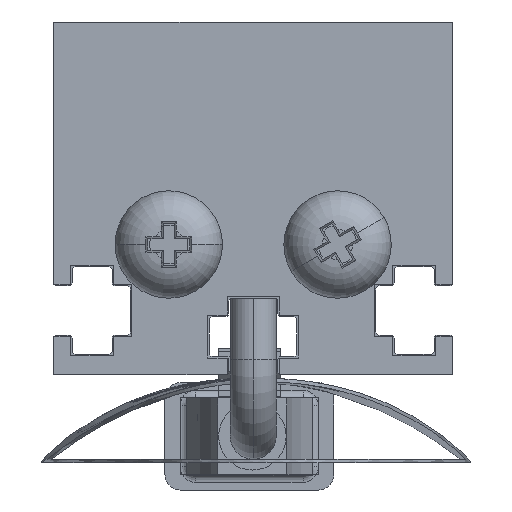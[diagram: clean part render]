
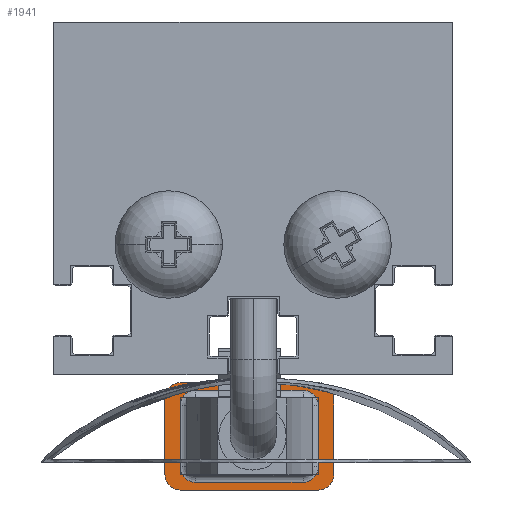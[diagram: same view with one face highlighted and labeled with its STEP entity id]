
A CAD part, left-side view. The second image highlights one B-rep face of the part: STEP entity #1941.
In plain terms, the highlighted planar face has unit normal (-1, 0, 0).
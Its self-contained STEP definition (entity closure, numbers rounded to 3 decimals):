
#1941=ADVANCED_FACE('NONE',(#4051,#4052),#4053,.F.);
#4051=FACE_OUTER_BOUND('',#6636,.T.);
#4052=FACE_BOUND('',#6637,.T.);
#4053=PLANE('',#6638);
#6636=EDGE_LOOP('',(#12261,#12262,#12263,#12264,#12265,#12266,#12267,#12268,#12269,#12270,#12271,#12272));
#6637=EDGE_LOOP('',(#12273,#12274,#12275,#12276,#12277,#12278,#12279,#12280));
#6638=AXIS2_PLACEMENT_3D('',#12281,#12282,#12283);
#12261=ORIENTED_EDGE('',*,*,#17531,.T.);
#12262=ORIENTED_EDGE('',*,*,#17333,.T.);
#12263=ORIENTED_EDGE('',*,*,#17539,.F.);
#12264=ORIENTED_EDGE('',*,*,#17328,.T.);
#12265=ORIENTED_EDGE('',*,*,#17552,.F.);
#12266=ORIENTED_EDGE('',*,*,#17375,.T.);
#12267=ORIENTED_EDGE('',*,*,#17550,.F.);
#12268=ORIENTED_EDGE('',*,*,#17384,.F.);
#12269=ORIENTED_EDGE('',*,*,#17534,.F.);
#12270=ORIENTED_EDGE('',*,*,#17325,.T.);
#12271=ORIENTED_EDGE('',*,*,#17542,.T.);
#12272=ORIENTED_EDGE('',*,*,#17320,.T.);
#12273=ORIENTED_EDGE('',*,*,#17349,.F.);
#12274=ORIENTED_EDGE('',*,*,#17339,.T.);
#12275=ORIENTED_EDGE('',*,*,#17352,.F.);
#12276=ORIENTED_EDGE('',*,*,#17360,.T.);
#12277=ORIENTED_EDGE('',*,*,#17368,.F.);
#12278=ORIENTED_EDGE('',*,*,#17371,.T.);
#12279=ORIENTED_EDGE('',*,*,#17365,.F.);
#12280=ORIENTED_EDGE('',*,*,#17357,.T.);
#12281=CARTESIAN_POINT('',(11.0,9.5,3.5));
#12282=DIRECTION('',(1.0,0.0,0.0));
#12283=DIRECTION('',(0.0,1.0,0.0));
#17320=EDGE_CURVE('NONE',#21377,#21375,#21378,.T.);
#17325=EDGE_CURVE('NONE',#21386,#21384,#21387,.T.);
#17328=EDGE_CURVE('NONE',#21390,#21391,#21392,.T.);
#17333=EDGE_CURVE('NONE',#21399,#21400,#21401,.T.);
#17339=EDGE_CURVE('NONE',#21411,#21409,#21412,.T.);
#17349=EDGE_CURVE('NONE',#21411,#21425,#21429,.T.);
#17352=EDGE_CURVE('NONE',#21432,#21409,#21434,.T.);
#17357=EDGE_CURVE('NONE',#21437,#21425,#21441,.T.);
#17360=EDGE_CURVE('NONE',#21432,#21444,#21446,.T.);
#17365=EDGE_CURVE('NONE',#21437,#21449,#21453,.T.);
#17368=EDGE_CURVE('NONE',#21456,#21444,#21458,.T.);
#17371=EDGE_CURVE('NONE',#21456,#21449,#21461,.T.);
#17375=EDGE_CURVE('NONE',#21467,#21464,#21468,.T.);
#17384=EDGE_CURVE('NONE',#21482,#21475,#21484,.T.);
#17531=EDGE_CURVE('NONE',#21375,#21399,#21721,.T.);
#17534=EDGE_CURVE('NONE',#21386,#21482,#21724,.T.);
#17539=EDGE_CURVE('NONE',#21390,#21400,#21729,.T.);
#17542=EDGE_CURVE('NONE',#21384,#21377,#21732,.T.);
#17550=EDGE_CURVE('NONE',#21475,#21464,#21740,.T.);
#17552=EDGE_CURVE('NONE',#21467,#21391,#21742,.T.);
#21375=VERTEX_POINT('NONE',#27525);
#21377=VERTEX_POINT('NONE',#27528);
#21378=CIRCLE('',#27529,1.0);
#21384=VERTEX_POINT('NONE',#27536);
#21386=VERTEX_POINT('NONE',#27539);
#21387=CIRCLE('',#27540,1.0);
#21390=VERTEX_POINT('NONE',#27544);
#21391=VERTEX_POINT('NONE',#27545);
#21392=CIRCLE('',#27546,1.0);
#21399=VERTEX_POINT('NONE',#27555);
#21400=VERTEX_POINT('NONE',#27556);
#21401=CIRCLE('',#27557,1.0);
#21409=VERTEX_POINT('NONE',#27567);
#21411=VERTEX_POINT('NONE',#27569);
#21412=LINE('',#27570,#27571);
#21425=VERTEX_POINT('NONE',#27587);
#21429=CIRCLE('',#27591,1.0);
#21432=VERTEX_POINT('NONE',#27594);
#21434=CIRCLE('',#27596,1.0);
#21437=VERTEX_POINT('NONE',#27599);
#21441=LINE('',#27604,#27605);
#21444=VERTEX_POINT('NONE',#27608);
#21446=LINE('',#27610,#27611);
#21449=VERTEX_POINT('NONE',#27615);
#21453=CIRCLE('',#27619,1.0);
#21456=VERTEX_POINT('NONE',#27622);
#21458=CIRCLE('',#27624,1.0);
#21461=LINE('',#27627,#27628);
#21464=VERTEX_POINT('NONE',#27632);
#21467=VERTEX_POINT('NONE',#27636);
#21468=LINE('',#27637,#27638);
#21475=VERTEX_POINT('NONE',#27648);
#21482=VERTEX_POINT('NONE',#27658);
#21484=LINE('',#27661,#27662);
#21721=LINE('',#28020,#28021);
#21724=LINE('',#28025,#28026);
#21729=LINE('',#28033,#28034);
#21732=LINE('',#28038,#28039);
#21740=LINE('',#28050,#28051);
#21742=LINE('',#28053,#28054);
#27525=CARTESIAN_POINT('',(11.0,8.5,-3.5));
#27528=CARTESIAN_POINT('',(11.0,9.5,-2.5));
#27529=AXIS2_PLACEMENT_3D('',#36041,#36042,#36043);
#27536=CARTESIAN_POINT('',(11.0,9.5,2.5));
#27539=CARTESIAN_POINT('',(11.0,8.5,3.5));
#27540=AXIS2_PLACEMENT_3D('',#36049,#36050,#36051);
#27544=CARTESIAN_POINT('',(11.0,-1.5,2.5));
#27545=CARTESIAN_POINT('',(11.0,-0.5,3.5));
#27546=AXIS2_PLACEMENT_3D('',#36053,#36054,#36055);
#27555=CARTESIAN_POINT('',(11.0,-0.5,-3.5));
#27556=CARTESIAN_POINT('',(11.0,-1.5,-2.5));
#27557=AXIS2_PLACEMENT_3D('',#36061,#36062,#36063);
#27567=CARTESIAN_POINT('',(11.0,0.5,3.0));
#27569=CARTESIAN_POINT('',(11.0,7.5,3.0));
#27570=CARTESIAN_POINT('',(11.0,9.5,3.0));
#27571=VECTOR('',#36072,1000.0);
#27587=CARTESIAN_POINT('',(11.0,8.5,2.0));
#27591=AXIS2_PLACEMENT_3D('',#36091,#36092,#36093);
#27594=CARTESIAN_POINT('',(11.0,-0.5,2.0));
#27596=AXIS2_PLACEMENT_3D('',#36097,#36098,#36099);
#27599=CARTESIAN_POINT('',(11.0,8.5,-2.0));
#27604=CARTESIAN_POINT('',(11.0,8.5,2.5));
#27605=VECTOR('',#36107,1000.0);
#27608=CARTESIAN_POINT('',(11.0,-0.5,-2.0));
#27610=CARTESIAN_POINT('',(11.0,-0.5,-2.5));
#27611=VECTOR('',#36111,1000.0);
#27615=CARTESIAN_POINT('',(11.0,7.5,-3.0));
#27619=AXIS2_PLACEMENT_3D('',#36119,#36120,#36121);
#27622=CARTESIAN_POINT('',(11.0,0.5,-3.0));
#27624=AXIS2_PLACEMENT_3D('',#36125,#36126,#36127);
#27627=CARTESIAN_POINT('',(11.0,8.0,-3.0));
#27628=VECTOR('',#36131,1000.0);
#27632=CARTESIAN_POINT('',(11.0,3.0,4.0));
#27636=CARTESIAN_POINT('',(11.0,3.0,3.5));
#27637=CARTESIAN_POINT('',(11.0,3.0,4.0));
#27638=VECTOR('',#36134,1000.0);
#27648=CARTESIAN_POINT('',(11.0,5.0,4.0));
#27658=CARTESIAN_POINT('',(11.0,5.0,3.5));
#27661=CARTESIAN_POINT('',(11.0,5.0,4.0));
#27662=VECTOR('',#36142,1000.0);
#28020=CARTESIAN_POINT('',(11.0,9.5,-3.5));
#28021=VECTOR('',#36264,1000.0);
#28025=CARTESIAN_POINT('',(11.0,9.5,3.5));
#28026=VECTOR('',#36266,1000.0);
#28033=CARTESIAN_POINT('',(11.0,-1.5,3.5));
#28034=VECTOR('',#36269,1000.0);
#28038=CARTESIAN_POINT('',(11.0,9.5,3.5));
#28039=VECTOR('',#36271,1000.0);
#28050=CARTESIAN_POINT('',(11.0,5.0,4.0));
#28051=VECTOR('',#36275,1000.0);
#28053=CARTESIAN_POINT('',(11.0,9.5,3.5));
#28054=VECTOR('',#36276,1000.0);
#36041=CARTESIAN_POINT('',(11.0,8.5,-2.5));
#36042=DIRECTION('',(-1.0,0.0,0.0));
#36043=DIRECTION('',(0.0,0.0,-1.0));
#36049=CARTESIAN_POINT('',(11.0,8.5,2.5));
#36050=DIRECTION('',(-1.0,0.0,0.0));
#36051=DIRECTION('',(0.0,0.0,-1.0));
#36053=CARTESIAN_POINT('',(11.0,-0.5,2.5));
#36054=DIRECTION('',(-1.0,0.0,0.0));
#36055=DIRECTION('',(0.0,0.0,-1.0));
#36061=CARTESIAN_POINT('',(11.0,-0.5,-2.5));
#36062=DIRECTION('',(-1.0,0.0,0.0));
#36063=DIRECTION('',(0.0,0.0,-1.0));
#36072=DIRECTION('',(0.0,-1.0,0.0));
#36091=CARTESIAN_POINT('',(11.0,7.5,2.0));
#36092=DIRECTION('',(-1.0,0.0,0.0));
#36093=DIRECTION('',(0.0,0.0,-1.0));
#36097=CARTESIAN_POINT('',(11.0,0.5,2.0));
#36098=DIRECTION('',(-1.0,0.0,0.0));
#36099=DIRECTION('',(0.0,0.0,-1.0));
#36107=DIRECTION('',(0.0,0.0,1.0));
#36111=DIRECTION('',(0.0,0.0,-1.0));
#36119=CARTESIAN_POINT('',(11.0,7.5,-2.0));
#36120=DIRECTION('',(-1.0,0.0,0.0));
#36121=DIRECTION('',(0.0,0.0,-1.0));
#36125=CARTESIAN_POINT('',(11.0,0.5,-2.0));
#36126=DIRECTION('',(-1.0,0.0,0.0));
#36127=DIRECTION('',(0.0,0.0,-1.0));
#36131=DIRECTION('',(0.0,1.0,0.0));
#36134=DIRECTION('',(0.0,0.0,1.0));
#36142=DIRECTION('',(0.0,0.0,1.0));
#36264=DIRECTION('',(0.0,-1.0,0.0));
#36266=DIRECTION('',(0.0,-1.0,0.0));
#36269=DIRECTION('',(0.0,0.0,-1.0));
#36271=DIRECTION('',(0.0,0.0,-1.0));
#36275=DIRECTION('',(0.0,-1.0,0.0));
#36276=DIRECTION('',(0.0,-1.0,0.0));
